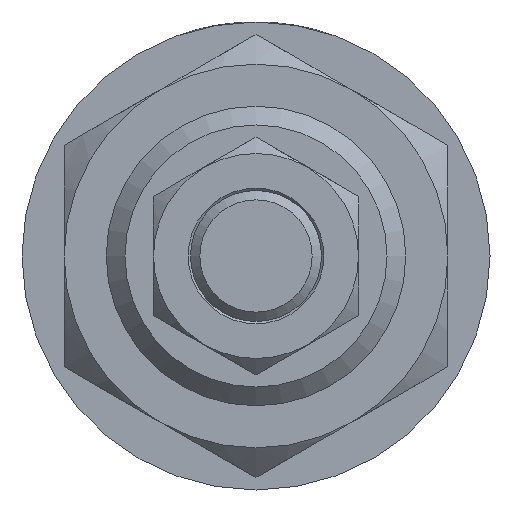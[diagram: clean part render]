
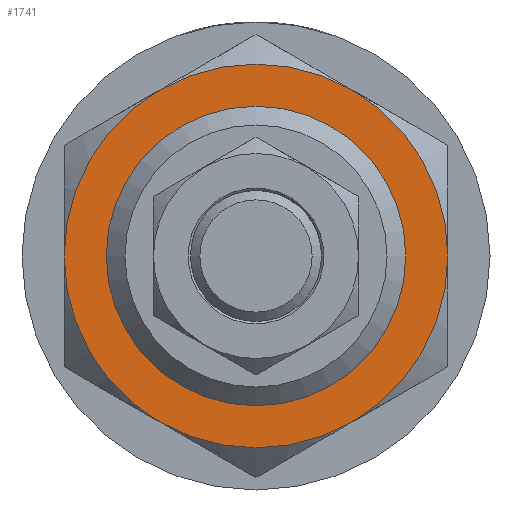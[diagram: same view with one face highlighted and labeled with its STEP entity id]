
A CAD part, front view. The second image highlights one B-rep face of the part: STEP entity #1741.
In plain terms, the highlighted planar face has unit normal (0, -1, 0).
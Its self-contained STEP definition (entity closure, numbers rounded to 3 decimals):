
#188=PLANE('',#1894);
#237=CIRCLE('',#1895,16.);
#238=CIRCLE('',#1896,20.5);
#239=CIRCLE('',#1897,20.5);
#240=CIRCLE('',#1898,20.5);
#241=CIRCLE('',#1899,20.5);
#242=CIRCLE('',#1900,20.5);
#243=CIRCLE('',#1901,20.5);
#440=ORIENTED_EDGE('',*,*,#650,.T.);
#441=ORIENTED_EDGE('',*,*,#651,.T.);
#442=ORIENTED_EDGE('',*,*,#652,.T.);
#443=ORIENTED_EDGE('',*,*,#653,.T.);
#444=ORIENTED_EDGE('',*,*,#654,.T.);
#445=ORIENTED_EDGE('',*,*,#655,.T.);
#446=ORIENTED_EDGE('',*,*,#656,.T.);
#650=EDGE_CURVE('',#772,#772,#237,.T.);
#651=EDGE_CURVE('',#749,#754,#238,.F.);
#652=EDGE_CURVE('',#754,#770,#239,.F.);
#653=EDGE_CURVE('',#770,#767,#240,.F.);
#654=EDGE_CURVE('',#767,#763,#241,.F.);
#655=EDGE_CURVE('',#763,#759,#242,.F.);
#656=EDGE_CURVE('',#759,#749,#243,.F.);
#749=VERTEX_POINT('',#2615);
#754=VERTEX_POINT('',#2636);
#759=VERTEX_POINT('',#2655);
#763=VERTEX_POINT('',#2674);
#767=VERTEX_POINT('',#2693);
#770=VERTEX_POINT('',#2710);
#772=VERTEX_POINT('',#2721);
#912=EDGE_LOOP('',(#440));
#913=EDGE_LOOP('',(#441,#442,#443,#444,#445,#446));
#1042=FACE_BOUND('',#912,.T.);
#1043=FACE_BOUND('',#913,.T.);
#1741=ADVANCED_FACE('',(#1042,#1043),#188,.F.);
#1894=AXIS2_PLACEMENT_3D('',#2719,#2180,#2181);
#1895=AXIS2_PLACEMENT_3D('',#2720,#2182,#2183);
#1896=AXIS2_PLACEMENT_3D('',#2722,#2184,#2185);
#1897=AXIS2_PLACEMENT_3D('',#2723,#2186,#2187);
#1898=AXIS2_PLACEMENT_3D('',#2724,#2188,#2189);
#1899=AXIS2_PLACEMENT_3D('',#2725,#2190,#2191);
#1900=AXIS2_PLACEMENT_3D('',#2726,#2192,#2193);
#1901=AXIS2_PLACEMENT_3D('',#2727,#2194,#2195);
#2180=DIRECTION('',(0.,1.,0.));
#2181=DIRECTION('',(0.,0.,1.));
#2182=DIRECTION('',(0.,1.,0.));
#2183=DIRECTION('',(0.,0.,1.));
#2184=DIRECTION('',(0.,1.,0.));
#2185=DIRECTION('',(0.,0.,1.));
#2186=DIRECTION('',(0.,1.,0.));
#2187=DIRECTION('',(0.,0.,1.));
#2188=DIRECTION('',(0.,1.,0.));
#2189=DIRECTION('',(0.,0.,1.));
#2190=DIRECTION('',(0.,1.,0.));
#2191=DIRECTION('',(0.,0.,1.));
#2192=DIRECTION('',(0.,1.,0.));
#2193=DIRECTION('',(0.,0.,1.));
#2194=DIRECTION('',(0.,1.,0.));
#2195=DIRECTION('',(0.,0.,1.));
#2615=CARTESIAN_POINT('',(10.25,-10.,17.754));
#2636=CARTESIAN_POINT('',(-10.25,-10.,17.754));
#2655=CARTESIAN_POINT('',(20.5,-10.,0.));
#2674=CARTESIAN_POINT('',(10.25,-10.,-17.754));
#2693=CARTESIAN_POINT('',(-10.25,-10.,-17.754));
#2710=CARTESIAN_POINT('',(-20.5,-10.,0.));
#2719=CARTESIAN_POINT('',(0.,-10.,0.));
#2720=CARTESIAN_POINT('',(0.,-10.,0.));
#2721=CARTESIAN_POINT('',(0.,-10.,16.));
#2722=CARTESIAN_POINT('',(0.,-10.,0.));
#2723=CARTESIAN_POINT('',(0.,-10.,0.));
#2724=CARTESIAN_POINT('',(0.,-10.,0.));
#2725=CARTESIAN_POINT('',(0.,-10.,0.));
#2726=CARTESIAN_POINT('',(0.,-10.,0.));
#2727=CARTESIAN_POINT('',(0.,-10.,0.));
